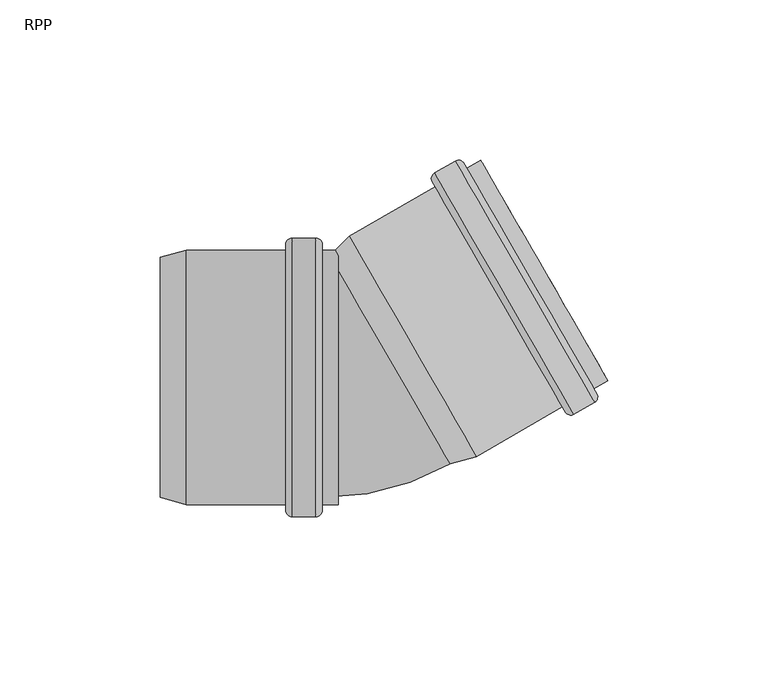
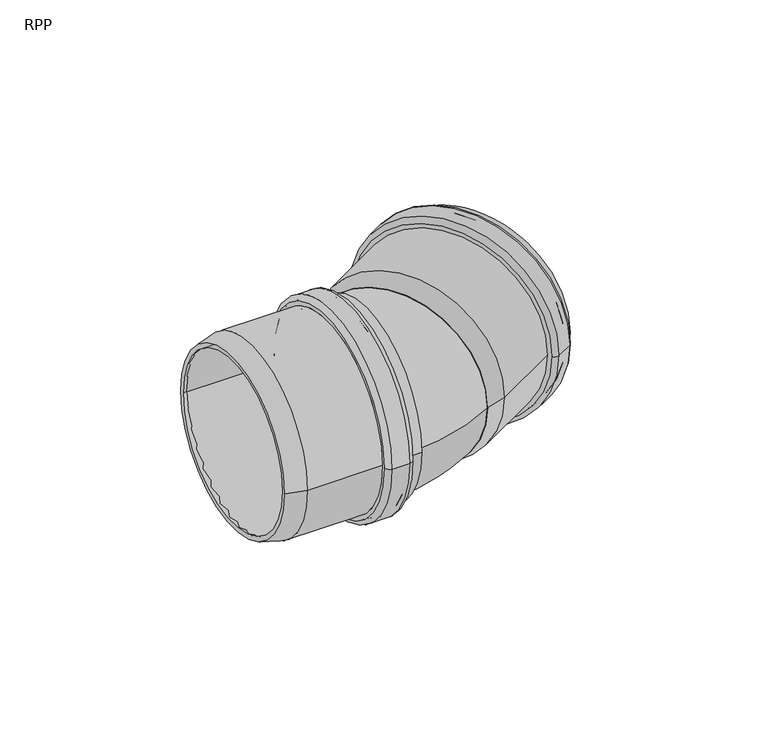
"""IFC4 building model written with IfcOpenShell, lengths in millimetres: pipe fitting geometry, RAUPIANO PLUS Bend : RPP."""

from ifc_helpers import new_model, si_unit, point, frame, origin, place, context, project, spatial, polyline, circle_curve, ellipse_curve, trimmed, source, transform, mapped, element, save
from ifc_brep_helpers import plane_surface, cylinder_surface, revolved_surface, advanced_brep


def rpp_d04c1ebb(model_context):
    return source(origin(), model_context, "Body", "AdvancedBrep", [
        advanced_brep(
        [(-21.0198915, -37.8, 0.0), (-21.0198915, 37.8, 0.0), (-53.65924, 37.8, 0.0), (-53.65924, -37.8, 0.0), (-20.5198915, -41.6, 0.0), (-20.5198915, 41.6, 0.0), (-21.0198915, 41.1, 0.0), (-21.0198915, -41.1, 0.0), (-13.9198915, -41.6, 0.0), (-13.9198915, 41.6, 0.0), (-13.4198915, -41.1, 0.0), (-13.4198915, 41.1, 0.0), (-6.5198915, -37.8, 0.0), (-6.5198915, 37.8, 0.0), (-13.4198915, 37.8, 0.0), (-13.4198915, -37.8, 0.0), (-11.5198915, -39.7, 0.0), (-11.5198915, 39.7, 0.0), (-6.5198915, 39.7, 0.0), (-6.5198915, -39.7, 0.0), (-13.5198915, -43.5, 0.0), (-13.5198915, 43.5, 0.0), (-11.5198915, 41.5, 0.0), (-11.5198915, -41.5, 0.0), (-20.9198915, -43.5, 0.0), (-20.9198915, 43.5, 0.0), (-22.9198915, -41.5, 0.0), (-22.9198915, 41.5, 0.0), (-53.9093797, -39.7, 0.0), (-53.9093797, 39.7, 0.0), (-22.9198915, 39.7, 0.0), (-22.9198915, -39.7, 0.0), (-62.1198915, -37.5, 0.0), (-62.1198915, 37.5, 0.0), (-62.1198915, 35.5329753, 0.0), (-62.1198915, -35.5329753, 0.0)],
        [
            (0, 1, circle_curve(frame((-21.0198915, 0.0, 0.0), z_axis=(1.0, 0.0, 0.0), x_axis=(0.0, 1.0, 0.0)), 37.8)),
            (1, 2),
            (2, 3, circle_curve(frame((-53.65924, 0.0, 0.0), z_axis=(-1.0, 0.0, 0.0), x_axis=(0.0, 1.0, 0.0)), 37.8)),
            (3, 0),
            (4, 5, circle_curve(frame((-20.5198915, 0.0, 0.0), z_axis=(1.0, 0.0, 0.0), x_axis=(0.0, 1.0, 0.0)), 41.6)),
            (5, 6, circle_curve(frame((-20.5198915, 41.1, 0.0), z_axis=(0.0, 0.0, 1.0), x_axis=(0.0, -1.0, 0.0)), 0.5)),
            (6, 7, circle_curve(frame((-21.0198915, 0.0, 0.0), z_axis=(-1.0, 0.0, 0.0), x_axis=(0.0, 1.0, 0.0)), 41.1)),
            (7, 4, circle_curve(frame((-20.5198915, -41.1, 0.0), z_axis=(0.0, 0.0, 1.0), x_axis=(0.0, 1.0, 0.0)), 0.5)),
            (8, 9, circle_curve(frame((-13.9198915, 0.0, 0.0), z_axis=(1.0, 0.0, 0.0), x_axis=(0.0, 1.0, 0.0)), 41.6)),
            (9, 5),
            (4, 8),
            (10, 11, circle_curve(frame((-13.4198915, 0.0, 0.0), z_axis=(1.0, 0.0, 0.0), x_axis=(0.0, 1.0, 0.0)), 41.1)),
            (11, 9, circle_curve(frame((-13.9198915, 41.1, 0.0), z_axis=(0.0, 0.0, 1.0), x_axis=(0.0, -1.0, 0.0)), 0.5)),
            (8, 10, circle_curve(frame((-13.9198915, -41.1, 0.0), z_axis=(0.0, 0.0, 1.0), x_axis=(0.0, 1.0, 0.0)), 0.5)),
            (12, 13, circle_curve(frame((-6.5198915, 0.0, 0.0), z_axis=(1.0, 0.0, 0.0), x_axis=(0.0, 1.0, 0.0)), 37.8)),
            (13, 14),
            (14, 15, circle_curve(frame((-13.4198915, 0.0, 0.0), z_axis=(-1.0, 0.0, 0.0), x_axis=(0.0, 1.0, 0.0)), 37.8)),
            (15, 12),
            (16, 17, circle_curve(frame((-11.5198915, 0.0, 0.0), z_axis=(1.0, 0.0, 0.0), x_axis=(0.0, 1.0, 0.0)), 39.7)),
            (17, 18),
            (18, 19, circle_curve(frame((-6.5198915, 0.0, 0.0), z_axis=(-1.0, 0.0, 0.0), x_axis=(0.0, 1.0, 0.0)), 39.7)),
            (19, 16),
            (20, 21, circle_curve(frame((-13.5198915, 0.0, 0.0), z_axis=(1.0, 0.0, 0.0), x_axis=(0.0, 1.0, 0.0)), 43.5)),
            (21, 22, circle_curve(frame((-13.5198915, 41.5, 0.0), z_axis=(0.0, 0.0, -1.0), x_axis=(0.0, -1.0, 0.0)), 2.0)),
            (22, 23, circle_curve(frame((-11.5198915, 0.0, 0.0), z_axis=(-1.0, 0.0, 0.0), x_axis=(0.0, 1.0, 0.0)), 41.5)),
            (23, 20, circle_curve(frame((-13.5198915, -41.5, 0.0), z_axis=(0.0, 0.0, -1.0), x_axis=(0.0, 1.0, 0.0)), 2.0)),
            (24, 25, circle_curve(frame((-20.9198915, 0.0, 0.0), z_axis=(1.0, 0.0, 0.0), x_axis=(0.0, 1.0, 0.0)), 43.5)),
            (25, 21),
            (20, 24),
            (26, 27, circle_curve(frame((-22.9198915, 0.0, 0.0), z_axis=(1.0, 0.0, 0.0), x_axis=(0.0, 1.0, 0.0)), 41.5)),
            (27, 25, circle_curve(frame((-20.9198915, 41.5, 0.0), z_axis=(0.0, 0.0, -1.0), x_axis=(0.0, -1.0, 0.0)), 2.0)),
            (24, 26, circle_curve(frame((-20.9198915, -41.5, 0.0), z_axis=(0.0, 0.0, -1.0), x_axis=(0.0, 1.0, 0.0)), 2.0)),
            (28, 29, circle_curve(frame((-53.9093797, 0.0, 0.0), z_axis=(1.0, 0.0, 0.0), x_axis=(0.0, 1.0, 0.0)), 39.7)),
            (29, 30),
            (30, 31, circle_curve(frame((-22.9198915, 0.0, 0.0), z_axis=(-1.0, 0.0, 0.0), x_axis=(0.0, 1.0, 0.0)), 39.7)),
            (31, 28),
            (32, 33, circle_curve(frame((-62.1198915, 0.0, 0.0), z_axis=(1.0, 0.0, 0.0), x_axis=(0.0, 1.0, 0.0)), 37.5)),
            (33, 29),
            (28, 32),
            (2, 34),
            (34, 35, circle_curve(frame((-62.1198915, 0.0, 0.0), z_axis=(-1.0, 0.0, 0.0), x_axis=(0.0, 1.0, 0.0)), 35.5329753)),
            (35, 3),
            (1, 0, circle_curve(frame((-21.0198915, 0.0, 0.0), z_axis=(1.0, 0.0, 0.0), x_axis=(0.0, -1.0, 0.0)), 37.8)),
            (3, 2, circle_curve(frame((-53.65924, 0.0, 0.0), z_axis=(-1.0, 0.0, 0.0), x_axis=(0.0, -1.0, 0.0)), 37.8)),
            (6, 7, circle_curve(frame((-21.0198915, 0.0, 0.0), z_axis=(1.0, 0.0, 0.0), x_axis=(0.0, -1.0, 0.0)), 41.1)),
            (5, 4, circle_curve(frame((-20.5198915, 0.0, 0.0), z_axis=(1.0, 0.0, 0.0), x_axis=(0.0, -1.0, 0.0)), 41.6)),
            (9, 8, circle_curve(frame((-13.9198915, 0.0, 0.0), z_axis=(1.0, 0.0, 0.0), x_axis=(0.0, -1.0, 0.0)), 41.6)),
            (11, 10, circle_curve(frame((-13.4198915, 0.0, 0.0), z_axis=(1.0, 0.0, 0.0), x_axis=(0.0, -1.0, 0.0)), 41.1)),
            (14, 15, circle_curve(frame((-13.4198915, 0.0, 0.0), z_axis=(1.0, 0.0, 0.0), x_axis=(0.0, -1.0, 0.0)), 37.8)),
            (13, 12, circle_curve(frame((-6.5198915, 0.0, 0.0), z_axis=(1.0, 0.0, 0.0), x_axis=(0.0, -1.0, 0.0)), 37.8)),
            (18, 19, circle_curve(frame((-6.5198915, 0.0, 0.0), z_axis=(1.0, 0.0, 0.0), x_axis=(0.0, -1.0, 0.0)), 39.7)),
            (17, 16, circle_curve(frame((-11.5198915, 0.0, 0.0), z_axis=(1.0, 0.0, 0.0), x_axis=(0.0, -1.0, 0.0)), 39.7)),
            (22, 23, circle_curve(frame((-11.5198915, 0.0, 0.0), z_axis=(1.0, 0.0, 0.0), x_axis=(0.0, -1.0, 0.0)), 41.5)),
            (21, 20, circle_curve(frame((-13.5198915, 0.0, 0.0), z_axis=(1.0, 0.0, 0.0), x_axis=(0.0, -1.0, 0.0)), 43.5)),
            (25, 24, circle_curve(frame((-20.9198915, 0.0, 0.0), z_axis=(1.0, 0.0, 0.0), x_axis=(0.0, -1.0, 0.0)), 43.5)),
            (27, 26, circle_curve(frame((-22.9198915, 0.0, 0.0), z_axis=(1.0, 0.0, 0.0), x_axis=(0.0, -1.0, 0.0)), 41.5)),
            (30, 31, circle_curve(frame((-22.9198915, 0.0, 0.0), z_axis=(1.0, 0.0, 0.0), x_axis=(0.0, -1.0, 0.0)), 39.7)),
            (29, 28, circle_curve(frame((-53.9093797, 0.0, 0.0), z_axis=(1.0, 0.0, 0.0), x_axis=(0.0, -1.0, 0.0)), 39.7)),
            (33, 32, circle_curve(frame((-62.1198915, 0.0, 0.0), z_axis=(1.0, 0.0, 0.0), x_axis=(0.0, -1.0, 0.0)), 37.5)),
            (34, 35, circle_curve(frame((-62.1198915, 0.0, 0.0), z_axis=(1.0, 0.0, 0.0), x_axis=(0.0, -1.0, 0.0)), 35.5329753)),
        ],
        [
            revolved_surface(polyline([(-53.65924, 37.8, 0.0), (-21.0198915, 37.8, 0.0)]), (-62.1198915, 0.0, 0.0), (-1.0, 0.0, 0.0)),
            revolved_surface(trimmed(ellipse_curve(frame((-20.5198915, 41.1, 0.0), z_axis=(0.0, 0.0, -1.0), x_axis=(0.0, -1.0, 0.0)), 0.5, 0.5), [point((-21.0198915, 41.1, 0.0))], [point((-20.5198915, 41.6, 0.0))], True, "CARTESIAN"), (-62.1198915, 0.0, 0.0), (-1.0, 0.0, 0.0)),
            revolved_surface(polyline([(-20.5198915, 41.6, 0.0), (-13.919891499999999, 41.6, 0.0)]), (-62.1198915, 0.0, 0.0), (-1.0, 0.0, 0.0)),
            revolved_surface(trimmed(ellipse_curve(frame((-13.9198915, 41.1, 0.0), z_axis=(0.0, 0.0, -1.0), x_axis=(0.0, -1.0, 0.0)), 0.5, 0.5), [point((-13.9198915, 41.6, 0.0))], [point((-13.4198915, 41.1, 0.0))], True, "CARTESIAN"), (-62.1198915, 0.0, 0.0), (-1.0, 0.0, 0.0)),
            revolved_surface(polyline([(-13.419891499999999, 37.8, 0.0), (-6.5198915, 37.8, 0.0)]), (-62.1198915, 0.0, 0.0), (-1.0, 0.0, 0.0)),
            cylinder_surface(frame((-62.1198915, 0.0, 0.0), z_axis=(-1.0, 0.0, 0.0), x_axis=(0.0, 1.0, 0.0)), 39.7),
            revolved_surface(trimmed(ellipse_curve(frame((-13.5198915, 41.5, 0.0), z_axis=(0.0, 0.0, 1.0), x_axis=(0.0, -1.0, 0.0)), 2.0, 2.0), [point((-11.5198915, 41.5, 0.0))], [point((-13.5198915, 43.5, 0.0))], True, "CARTESIAN"), (-62.1198915, 0.0, 0.0), (-1.0, 0.0, 0.0)),
            cylinder_surface(frame((-62.1198915, 0.0, 0.0), z_axis=(-1.0, 0.0, 0.0), x_axis=(0.0, 1.0, 0.0)), 43.5),
            revolved_surface(trimmed(ellipse_curve(frame((-20.9198915, 41.5, 0.0), z_axis=(0.0, 0.0, 1.0), x_axis=(0.0, -1.0, 0.0)), 2.0, 2.0), [point((-20.9198915, 43.5, 0.0))], [point((-22.9198915, 41.5, 0.0))], True, "CARTESIAN"), (-62.1198915, 0.0, 0.0), (-1.0, 0.0, 0.0)),
            revolved_surface(polyline([(-53.9093797, 39.7, 0.0), (-62.1198915, 37.5, 0.0)]), (-62.1198915, 0.0, 0.0), (-1.0, 0.0, 0.0)),
            revolved_surface(polyline([(-62.1198915, 35.5329753, 0.0), (-53.65924, 37.8, 0.0)]), (-62.1198915, 0.0, 0.0), (-1.0, 0.0, 0.0)),
            revolved_surface(polyline([(-53.65924, -37.8, 0.0), (-21.0198915, -37.8, 0.0)]), (-62.1198915, 0.0, 0.0), (-1.0, 0.0, 0.0)),
            plane_surface(frame((-21.0198915, 0.0, 0.0), z_axis=(1.0, 0.0, 0.0), x_axis=(0.0, -1.0, 0.0))),
            revolved_surface(trimmed(ellipse_curve(frame((-20.5198915, -41.1, 0.0), z_axis=(0.0, 0.0, 1.0), x_axis=(0.0, 1.0, 0.0)), 0.5, 0.5), [point((-21.0198915, -41.1, 0.0))], [point((-20.5198915, -41.6, 0.0))], True, "CARTESIAN"), (-62.1198915, 0.0, 0.0), (-1.0, 0.0, 0.0)),
            revolved_surface(polyline([(-20.5198915, -41.6, 0.0), (-13.919891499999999, -41.6, 0.0)]), (-62.1198915, 0.0, 0.0), (-1.0, 0.0, 0.0)),
            revolved_surface(trimmed(ellipse_curve(frame((-13.9198915, -41.1, 0.0), z_axis=(0.0, 0.0, 1.0), x_axis=(0.0, 1.0, 0.0)), 0.5, 0.5), [point((-13.9198915, -41.6, 0.0))], [point((-13.4198915, -41.1, 0.0))], True, "CARTESIAN"), (-62.1198915, 0.0, 0.0), (-1.0, 0.0, 0.0)),
            plane_surface(frame((-13.4198915, 0.0, 0.0), z_axis=(-1.0, 0.0, 0.0), x_axis=(0.0, -1.0, 0.0))),
            revolved_surface(polyline([(-13.419891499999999, -37.8, 0.0), (-6.5198915, -37.8, 0.0)]), (-62.1198915, 0.0, 0.0), (-1.0, 0.0, 0.0)),
            plane_surface(frame((-6.5198915, 0.0, 0.0), z_axis=(1.0, 0.0, 0.0), x_axis=(0.0, -1.0, 0.0))),
            cylinder_surface(frame((-62.1198915, 0.0, 0.0), z_axis=(-1.0, 0.0, 0.0), x_axis=(0.0, -1.0, 0.0)), 39.7),
            plane_surface(frame((-11.5198915, 0.0, 0.0), z_axis=(1.0, 0.0, 0.0), x_axis=(0.0, -1.0, 0.0))),
            revolved_surface(trimmed(ellipse_curve(frame((-13.5198915, -41.5, 0.0), z_axis=(0.0, 0.0, -1.0), x_axis=(0.0, 1.0, 0.0)), 2.0, 2.0), [point((-11.5198915, -41.5, 0.0))], [point((-13.5198915, -43.5, 0.0))], True, "CARTESIAN"), (-62.1198915, 0.0, 0.0), (-1.0, 0.0, 0.0)),
            cylinder_surface(frame((-62.1198915, 0.0, 0.0), z_axis=(-1.0, 0.0, 0.0), x_axis=(0.0, -1.0, 0.0)), 43.5),
            revolved_surface(trimmed(ellipse_curve(frame((-20.9198915, -41.5, 0.0), z_axis=(0.0, 0.0, -1.0), x_axis=(0.0, 1.0, 0.0)), 2.0, 2.0), [point((-20.9198915, -43.5, 0.0))], [point((-22.9198915, -41.5, 0.0))], True, "CARTESIAN"), (-62.1198915, 0.0, 0.0), (-1.0, 0.0, 0.0)),
            plane_surface(frame((-22.9198915, 0.0, 0.0), z_axis=(-1.0, 0.0, 0.0), x_axis=(0.0, -1.0, 0.0))),
            revolved_surface(polyline([(-53.9093797, -39.7, 0.0), (-62.1198915, -37.5, 0.0)]), (-62.1198915, 0.0, 0.0), (-1.0, 0.0, 0.0)),
            plane_surface(frame((-62.1198915, 0.0, 0.0), z_axis=(-1.0, 0.0, 0.0), x_axis=(0.0, -1.0, 0.0))),
            revolved_surface(polyline([(-62.1198915, -35.5329753, 0.0), (-53.65924, -37.8, 0.0)]), (-62.1198915, 0.0, 0.0), (-1.0, 0.0, 0.0)),
        ],
        [
            (0, [[1, 2, 3, 4]]),
            (1, [[5, 6, 7, 8]]),
            (2, [[9, 10, -5, 11]]),
            (3, [[12, 13, -9, 14]]),
            (4, [[15, 16, 17, 18]]),
            (5, [[19, 20, 21, 22]]),
            (6, [[23, 24, 25, 26]]),
            (7, [[27, 28, -23, 29]]),
            (8, [[30, 31, -27, 32]]),
            (5, [[33, 34, 35, 36]]),
            (9, [[37, 38, -33, 39]]),
            (10, [[-3, 40, 41, 42]]),
            (11, [[43, -4, 44, -2]]),
            (12, [[45, -7], [-43, -1]]),
            (13, [[46, -8, -45, -6]]),
            (14, [[47, -11, -46, -10]]),
            (15, [[48, -14, -47, -13]]),
            (16, [[-48, -12], [49, -17]]),
            (17, [[50, -18, -49, -16]]),
            (18, [[51, -21], [-50, -15]]),
            (19, [[52, -22, -51, -20]]),
            (20, [[53, -25], [-52, -19]]),
            (21, [[54, -26, -53, -24]]),
            (22, [[55, -29, -54, -28]]),
            (23, [[56, -32, -55, -31]]),
            (24, [[-56, -30], [57, -35]]),
            (19, [[58, -36, -57, -34]]),
            (25, [[59, -39, -58, -38]]),
            (26, [[-59, -37], [60, -41]]),
            (27, [[-44, -42, -60, -40]]),
        ],
    ),
        advanced_brep(
        [(27.3965961, -25.2125135, 0.0), (-8.1363791, 36.332405, 0.0), (-1.9427523, 42.5260318, 0.0), (35.8572477, -22.9454888, 0.0), (36.5906203, -24.7160069, 0.0), (-3.1093797, 44.0464102, 0.0), (-9.1198915, 38.0358984, 0.0), (28.3801085, -26.9160069, 0.0), (63.4283043, -9.2212628, 0.0), (23.7283043, 59.5411543, 0.0), (73.4689431, -7.8121593, 0.0), (29.9689431, 67.5320508, 0.0), (23.5603552, 63.8320508, 0.0), (67.0603552, -11.5121593, 0.0), (77.631121, -1.0212628, 0.0), (37.931121, 67.7411543, 0.0), (33.6009939, 65.2411543, 0.0), (73.3009939, -3.5212628, 0.0), (70.7055457, -2.8258145, 0.0), (32.9055457, 62.645706, 0.0), (38.881121, 66.095706, 0.0), (76.681121, 0.6241855, 0.0), (66.4567653, -9.6667111, 0.0), (24.8567653, 62.3866025, 0.0), (30.572533, 65.6866025, 0.0), (72.172533, -6.3667111, 0.0), (26.3237526, 58.845706, 0.0), (64.1237526, -6.6258145, 0.0), (22.8283043, 61.1, 0.0), (64.3283043, -10.7801085, 0.0), (74.2009939, -5.0801085, 0.0), (32.7009939, 66.8, 0.0), (31.2555457, 65.5035898, 0.0), (72.3555457, -5.6836984, 0.0), (65.7737526, -9.4836984, 0.0), (24.6737526, 61.7035898, 0.0)],
        [
            (0, 1, circle_curve(frame((9.6301085, 5.5599457, 0.0), z_axis=(-0.8660254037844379, -0.5000000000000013, 0.0), x_axis=(-0.5000000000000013, 0.8660254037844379, 0.0)), 35.5329753)),
            (1, 2),
            (2, 3, circle_curve(frame((16.9572477, 9.7902715, 0.0), z_axis=(0.8660254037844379, 0.5000000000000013, 0.0), x_axis=(-0.5000000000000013, 0.8660254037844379, 0.0)), 37.8)),
            (3, 0),
            (4, 5, circle_curve(frame((16.7406203, 9.6652016, 0.0), z_axis=(-0.8660254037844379, -0.5000000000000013, 0.0), x_axis=(-0.5000000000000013, 0.8660254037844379, 0.0)), 39.7)),
            (5, 6),
            (6, 7, circle_curve(frame((9.6301085, 5.5599457, 0.0), z_axis=(0.8660254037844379, 0.5000000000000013, 0.0), x_axis=(-0.5000000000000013, 0.8660254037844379, 0.0)), 37.5)),
            (7, 4),
            (8, 9, circle_curve(frame((43.5783043, 25.1599457, 0.0), z_axis=(-0.8660254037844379, -0.5000000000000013, 0.0), x_axis=(-0.5000000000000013, 0.8660254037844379, 0.0)), 39.7)),
            (9, 5),
            (4, 8),
            (10, 11, circle_curve(frame((51.7189431, 29.8599457, 0.0), z_axis=(-0.8660254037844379, -0.5000000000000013, 0.0), x_axis=(-0.5000000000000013, 0.8660254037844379, 0.0)), 43.5)),
            (11, 12),
            (12, 13, circle_curve(frame((45.3103552, 26.1599457, 0.0), z_axis=(0.8660254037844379, 0.5000000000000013, 0.0), x_axis=(-0.5000000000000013, 0.8660254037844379, 0.0)), 43.5)),
            (13, 10),
            (14, 15, circle_curve(frame((57.781121, 33.3599457, 0.0), z_axis=(-0.8660254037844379, -0.5000000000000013, 0.0), x_axis=(-0.5000000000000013, 0.8660254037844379, 0.0)), 39.7)),
            (15, 16),
            (16, 17, circle_curve(frame((53.4509939, 30.8599457, 0.0), z_axis=(0.8660254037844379, 0.5000000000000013, 0.0), x_axis=(-0.5000000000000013, 0.8660254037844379, 0.0)), 39.7)),
            (17, 14),
            (18, 19, circle_curve(frame((51.8055457, 29.9099457, 0.0), z_axis=(-0.8660254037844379, -0.5000000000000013, 0.0), x_axis=(-0.5000000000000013, 0.8660254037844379, 0.0)), 37.8)),
            (19, 20),
            (20, 21, circle_curve(frame((57.781121, 33.3599457, 0.0), z_axis=(0.8660254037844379, 0.5000000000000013, 0.0), x_axis=(-0.5000000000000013, 0.8660254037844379, 0.0)), 37.8)),
            (21, 18),
            (22, 23, circle_curve(frame((45.6567653, 26.3599457, 0.0), z_axis=(-0.8660254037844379, -0.5000000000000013, 0.0), x_axis=(-0.5000000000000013, 0.8660254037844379, 0.0)), 41.6)),
            (23, 24),
            (24, 25, circle_curve(frame((51.372533, 29.6599457, 0.0), z_axis=(0.8660254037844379, 0.5000000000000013, 0.0), x_axis=(-0.5000000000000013, 0.8660254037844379, 0.0)), 41.6)),
            (25, 22),
            (2, 26),
            (26, 27, circle_curve(frame((45.2237526, 26.1099457, 0.0), z_axis=(0.8660254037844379, 0.5000000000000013, 0.0), x_axis=(-0.5000000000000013, 0.8660254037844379, 0.0)), 37.8)),
            (27, 3),
            (1, 0, circle_curve(frame((9.6301085, 5.5599457, 0.0), z_axis=(-0.8660254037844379, -0.5000000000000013, 0.0), x_axis=(0.5000000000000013, -0.8660254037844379, 0.0)), 35.5329753)),
            (3, 2, circle_curve(frame((16.9572477, 9.7902715, 0.0), z_axis=(0.8660254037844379, 0.5000000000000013, 0.0), x_axis=(0.5000000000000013, -0.8660254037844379, 0.0)), 37.8)),
            (6, 7, circle_curve(frame((9.6301085, 5.5599457, 0.0), z_axis=(-0.8660254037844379, -0.5000000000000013, 0.0), x_axis=(0.5000000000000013, -0.8660254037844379, 0.0)), 37.5)),
            (5, 4, circle_curve(frame((16.7406203, 9.6652016, 0.0), z_axis=(-0.8660254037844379, -0.5000000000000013, 0.0), x_axis=(0.5000000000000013, -0.8660254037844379, 0.0)), 39.7)),
            (9, 8, circle_curve(frame((43.5783043, 25.1599457, 0.0), z_axis=(-0.8660254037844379, -0.5000000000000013, 0.0), x_axis=(0.5000000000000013, -0.8660254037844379, 0.0)), 39.7)),
            (28, 29, circle_curve(frame((43.5783043, 25.1599457, 0.0), z_axis=(-0.8660254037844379, -0.5000000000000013, 0.0), x_axis=(0.5000000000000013, -0.8660254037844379, 0.0)), 41.5)),
            (29, 28, circle_curve(frame((43.5783043, 25.1599457, 0.0), z_axis=(-0.8660254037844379, -0.5000000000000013, 0.0), x_axis=(-0.5000000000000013, 0.8660254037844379, 0.0)), 41.5)),
            (11, 10, circle_curve(frame((51.7189431, 29.8599457, 0.0), z_axis=(-0.8660254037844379, -0.5000000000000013, 0.0), x_axis=(0.5000000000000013, -0.8660254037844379, 0.0)), 43.5)),
            (13, 12, circle_curve(frame((45.3103552, 26.1599457, 0.0), z_axis=(0.8660254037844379, 0.5000000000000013, 0.0), x_axis=(0.5000000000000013, -0.8660254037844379, 0.0)), 43.5)),
            (30, 31, circle_curve(frame((53.4509939, 30.8599457, 0.0), z_axis=(0.8660254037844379, 0.5000000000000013, 0.0), x_axis=(0.5000000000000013, -0.8660254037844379, 0.0)), 41.5)),
            (31, 30, circle_curve(frame((53.4509939, 30.8599457, 0.0), z_axis=(0.8660254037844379, 0.5000000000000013, 0.0), x_axis=(-0.5000000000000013, 0.8660254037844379, 0.0)), 41.5)),
            (16, 17, circle_curve(frame((53.4509939, 30.8599457, 0.0), z_axis=(-0.8660254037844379, -0.5000000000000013, 0.0), x_axis=(0.5000000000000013, -0.8660254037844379, 0.0)), 39.7)),
            (15, 14, circle_curve(frame((57.781121, 33.3599457, 0.0), z_axis=(-0.8660254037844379, -0.5000000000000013, 0.0), x_axis=(0.5000000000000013, -0.8660254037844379, 0.0)), 39.7)),
            (20, 21, circle_curve(frame((57.781121, 33.3599457, 0.0), z_axis=(-0.8660254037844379, -0.5000000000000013, 0.0), x_axis=(0.5000000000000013, -0.8660254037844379, 0.0)), 37.8)),
            (19, 18, circle_curve(frame((51.8055457, 29.9099457, 0.0), z_axis=(-0.8660254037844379, -0.5000000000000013, 0.0), x_axis=(0.5000000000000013, -0.8660254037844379, 0.0)), 37.8)),
            (32, 33, circle_curve(frame((51.8055457, 29.9099457, 0.0), z_axis=(-0.8660254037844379, -0.5000000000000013, 0.0), x_axis=(0.5000000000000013, -0.8660254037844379, 0.0)), 41.1)),
            (33, 32, circle_curve(frame((51.8055457, 29.9099457, 0.0), z_axis=(-0.8660254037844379, -0.5000000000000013, 0.0), x_axis=(-0.5000000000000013, 0.8660254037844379, 0.0)), 41.1)),
            (23, 22, circle_curve(frame((45.6567653, 26.3599457, 0.0), z_axis=(-0.8660254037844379, -0.5000000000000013, 0.0), x_axis=(0.5000000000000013, -0.8660254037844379, 0.0)), 41.6)),
            (25, 24, circle_curve(frame((51.372533, 29.6599457, 0.0), z_axis=(0.8660254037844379, 0.5000000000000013, 0.0), x_axis=(0.5000000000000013, -0.8660254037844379, 0.0)), 41.6)),
            (34, 35, circle_curve(frame((45.2237526, 26.1099457, 0.0), z_axis=(0.8660254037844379, 0.5000000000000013, 0.0), x_axis=(0.5000000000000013, -0.8660254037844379, 0.0)), 41.1)),
            (35, 34, circle_curve(frame((45.2237526, 26.1099457, 0.0), z_axis=(0.8660254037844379, 0.5000000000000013, 0.0), x_axis=(-0.5000000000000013, 0.8660254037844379, 0.0)), 41.1)),
            (26, 27, circle_curve(frame((45.2237526, 26.1099457, 0.0), z_axis=(-0.8660254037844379, -0.5000000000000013, 0.0), x_axis=(0.5000000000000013, -0.8660254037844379, 0.0)), 37.8)),
            (12, 28, circle_curve(frame((24.5603552, 62.1, 0.0), z_axis=(0.0, 0.0, 1.0), x_axis=(0.5000000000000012, -0.866025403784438, 0.0)), 2.0)),
            (29, 13, circle_curve(frame((66.0603552, -9.7801085, 0.0), z_axis=(0.0, 0.0, 1.0), x_axis=(-0.5000000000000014, 0.8660254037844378, 0.0)), 2.0)),
            (31, 11, circle_curve(frame((30.9689431, 65.8, 0.0), z_axis=(0.0, 0.0, 1.0), x_axis=(0.5000000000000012, -0.866025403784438, 0.0)), 2.0)),
            (10, 30, circle_curve(frame((72.4689431, -6.0801085, 0.0), z_axis=(0.0, 0.0, 1.0), x_axis=(-0.5000000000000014, 0.8660254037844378, 0.0)), 2.0)),
            (24, 32, circle_curve(frame((30.822533, 65.2535898, 0.0), z_axis=(0.0, 0.0, -1.0), x_axis=(0.5000000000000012, -0.866025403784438, 0.0)), 0.5)),
            (33, 25, circle_curve(frame((71.922533, -5.9336984, 0.0), z_axis=(0.0, 0.0, -1.0), x_axis=(-0.5000000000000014, 0.8660254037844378, 0.0)), 0.5)),
            (35, 23, circle_curve(frame((25.1067653, 61.9535898, 0.0), z_axis=(0.0, 0.0, -1.0), x_axis=(0.5000000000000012, -0.866025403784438, 0.0)), 0.5)),
            (22, 34, circle_curve(frame((66.2067653, -9.2336984, 0.0), z_axis=(0.0, 0.0, -1.0), x_axis=(-0.5000000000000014, 0.8660254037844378, 0.0)), 0.5)),
        ],
        [
            revolved_surface(polyline([(-1.9427523, 42.5260318, 0.0), (-8.1363791, 36.332405, 0.0)]), (9.6301085, 5.5599457, 0.0), (0.8660254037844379, 0.5000000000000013, 0.0)),
            revolved_surface(polyline([(-9.1198915, 38.0358984, 0.0), (-3.1093797, 44.0464102, 0.0)]), (9.6301085, 5.5599457, 0.0), (0.8660254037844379, 0.5000000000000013, 0.0)),
            cylinder_surface(frame((9.6301085, 5.5599457, 0.0), z_axis=(0.8660254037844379, 0.5000000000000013, 0.0), x_axis=(-0.5000000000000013, 0.8660254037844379, 0.0)), 39.7),
            cylinder_surface(frame((9.6301085, 5.5599457, 0.0), z_axis=(0.8660254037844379, 0.5000000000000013, 0.0), x_axis=(-0.5000000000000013, 0.8660254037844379, 0.0)), 43.5),
            revolved_surface(polyline([(38.88112101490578, 66.09570600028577, 0.0), (32.90554569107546, 62.64570597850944, 0.0)]), (9.6301085, 5.5599457, 0.0), (0.8660254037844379, 0.5000000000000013, 0.0)),
            revolved_surface(polyline([(30.572532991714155, 65.68660251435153, 0.0), (24.85676529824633, 62.38660249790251, 0.0)]), (9.6301085, 5.5599457, 0.0), (0.8660254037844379, 0.5000000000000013, 0.0)),
            revolved_surface(polyline([(26.323752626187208, 58.84570598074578, 0.0), (-1.9427523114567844, 42.52603174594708, 0.0)]), (9.6301085, 5.5599457, 0.0), (0.8660254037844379, 0.5000000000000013, 0.0)),
            revolved_surface(polyline([(35.8572477, -22.9454888, 0.0), (27.3965961, -25.2125135, 0.0)]), (9.6301085, 5.5599457, 0.0), (0.8660254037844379, 0.5000000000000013, 0.0)),
            plane_surface(frame((9.6301085, 5.5599457, 0.0), z_axis=(-0.8660254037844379, -0.5000000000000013, 0.0), x_axis=(0.5000000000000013, -0.8660254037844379, 0.0))),
            revolved_surface(polyline([(28.3801085, -26.9160069, 0.0), (36.5906203, -24.7160069, 0.0)]), (9.6301085, 5.5599457, 0.0), (0.8660254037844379, 0.5000000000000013, 0.0)),
            cylinder_surface(frame((9.6301085, 5.5599457, 0.0), z_axis=(0.8660254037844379, 0.5000000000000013, 0.0), x_axis=(0.5000000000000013, -0.8660254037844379, 0.0)), 39.7),
            plane_surface(frame((43.5783043, 25.1599457, 0.0), z_axis=(-0.8660254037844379, -0.5000000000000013, 0.0), x_axis=(0.5000000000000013, -0.8660254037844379, 0.0))),
            cylinder_surface(frame((9.6301085, 5.5599457, 0.0), z_axis=(0.8660254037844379, 0.5000000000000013, 0.0), x_axis=(0.5000000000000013, -0.8660254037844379, 0.0)), 43.5),
            plane_surface(frame((53.4509939, 30.8599457, 0.0), z_axis=(0.8660254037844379, 0.5000000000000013, 0.0), x_axis=(0.5000000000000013, -0.8660254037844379, 0.0))),
            plane_surface(frame((57.781121, 33.3599457, 0.0), z_axis=(0.8660254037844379, 0.5000000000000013, 0.0), x_axis=(0.5000000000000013, -0.8660254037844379, 0.0))),
            revolved_surface(polyline([(76.68112101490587, 0.6241854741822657, 0.0), (70.70554569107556, -2.8258145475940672, 0.0)]), (9.6301085, 5.5599457, 0.0), (0.8660254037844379, 0.5000000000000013, 0.0)),
            plane_surface(frame((51.8055457, 29.9099457, 0.0), z_axis=(-0.8660254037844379, -0.5000000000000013, 0.0), x_axis=(0.5000000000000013, -0.8660254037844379, 0.0))),
            revolved_surface(polyline([(72.17253299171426, -6.36671108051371, 0.0), (66.45676529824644, -9.666711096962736, 0.0)]), (9.6301085, 5.5599457, 0.0), (0.8660254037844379, 0.5000000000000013, 0.0)),
            plane_surface(frame((45.2237526, 26.1099457, 0.0), z_axis=(0.8660254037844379, 0.5000000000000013, 0.0), x_axis=(0.5000000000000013, -0.8660254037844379, 0.0))),
            revolved_surface(polyline([(64.1237526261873, -6.625814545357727, 0.0), (35.85724768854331, -22.945488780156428, 0.0)]), (9.6301085, 5.5599457, 0.0), (0.8660254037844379, 0.5000000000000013, 0.0)),
            revolved_surface(trimmed(ellipse_curve(frame((24.5603552, 62.1, 0.0), z_axis=(0.0, 0.0, -1.0), x_axis=(0.5000000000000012, -0.866025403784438, 0.0)), 2.0, 2.0), [point((22.8283043, 61.1, 0.0))], [point((23.5603552, 63.8320508, 0.0))], True, "CARTESIAN"), (9.6301085, 5.5599457, 0.0), (0.8660254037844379, 0.5000000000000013, 0.0)),
            revolved_surface(trimmed(ellipse_curve(frame((30.9689431, 65.8, 0.0), z_axis=(0.0, 0.0, -1.0), x_axis=(0.5000000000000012, -0.866025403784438, 0.0)), 2.0, 2.0), [point((29.9689431, 67.5320508, 0.0))], [point((32.7009939, 66.8, 0.0))], True, "CARTESIAN"), (9.6301085, 5.5599457, 0.0), (0.8660254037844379, 0.5000000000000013, 0.0)),
            revolved_surface(trimmed(ellipse_curve(frame((30.822533, 65.2535898, 0.0), z_axis=(0.0, 0.0, 1.0), x_axis=(0.5000000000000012, -0.866025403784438, 0.0)), 0.5, 0.5), [point((31.2555457, 65.5035898, 0.0))], [point((30.572533, 65.6866025, 0.0))], True, "CARTESIAN"), (9.6301085, 5.5599457, 0.0), (0.8660254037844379, 0.5000000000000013, 0.0)),
            revolved_surface(trimmed(ellipse_curve(frame((25.1067653, 61.9535898, 0.0), z_axis=(0.0, 0.0, 1.0), x_axis=(0.5000000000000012, -0.866025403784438, 0.0)), 0.5, 0.5), [point((24.8567653, 62.3866025, 0.0))], [point((24.6737526, 61.7035898, 0.0))], True, "CARTESIAN"), (9.6301085, 5.5599457, 0.0), (0.8660254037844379, 0.5000000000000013, 0.0)),
            revolved_surface(trimmed(ellipse_curve(frame((66.0603552, -9.7801085, 0.0), z_axis=(0.0, 0.0, 1.0), x_axis=(-0.5000000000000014, 0.8660254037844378, 0.0)), 2.0, 2.0), [point((64.3283043, -10.7801085, 0.0))], [point((67.0603552, -11.5121593, 0.0))], True, "CARTESIAN"), (9.6301085, 5.5599457, 0.0), (0.8660254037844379, 0.5000000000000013, 0.0)),
            revolved_surface(trimmed(ellipse_curve(frame((72.4689431, -6.0801085, 0.0), z_axis=(0.0, 0.0, 1.0), x_axis=(-0.5000000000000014, 0.8660254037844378, 0.0)), 2.0, 2.0), [point((73.4689431, -7.8121593, 0.0))], [point((74.2009939, -5.0801085, 0.0))], True, "CARTESIAN"), (9.6301085, 5.5599457, 0.0), (0.8660254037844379, 0.5000000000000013, 0.0)),
            revolved_surface(trimmed(ellipse_curve(frame((71.922533, -5.9336984, 0.0), z_axis=(0.0, 0.0, -1.0), x_axis=(-0.5000000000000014, 0.8660254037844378, 0.0)), 0.5, 0.5), [point((72.3555457, -5.6836984, 0.0))], [point((72.172533, -6.3667111, 0.0))], True, "CARTESIAN"), (9.6301085, 5.5599457, 0.0), (0.8660254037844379, 0.5000000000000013, 0.0)),
            revolved_surface(trimmed(ellipse_curve(frame((66.2067653, -9.2336984, 0.0), z_axis=(0.0, 0.0, -1.0), x_axis=(-0.5000000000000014, 0.8660254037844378, 0.0)), 0.5, 0.5), [point((66.4567653, -9.6667111, 0.0))], [point((65.7737526, -9.4836984, 0.0))], True, "CARTESIAN"), (9.6301085, 5.5599457, 0.0), (0.8660254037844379, 0.5000000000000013, 0.0)),
        ],
        [
            (0, [[1, 2, 3, 4]]),
            (1, [[5, 6, 7, 8]]),
            (2, [[9, 10, -5, 11]]),
            (3, [[12, 13, 14, 15]]),
            (2, [[16, 17, 18, 19]]),
            (4, [[20, 21, 22, 23]]),
            (5, [[24, 25, 26, 27]]),
            (6, [[-3, 28, 29, 30]]),
            (7, [[31, -4, 32, -2]]),
            (8, [[33, -7], [-31, -1]]),
            (9, [[34, -8, -33, -6]]),
            (10, [[35, -11, -34, -10]]),
            (11, [[36, 37], [-35, -9]]),
            (12, [[38, -15, 39, -13]]),
            (13, [[40, 41], [42, -18]]),
            (10, [[43, -19, -42, -17]]),
            (14, [[-43, -16], [44, -22]]),
            (15, [[45, -23, -44, -21]]),
            (16, [[46, 47], [-45, -20]]),
            (17, [[48, -27, 49, -25]]),
            (18, [[50, 51], [52, -29]]),
            (19, [[-32, -30, -52, -28]]),
            (20, [[-14, 53, -37, 54]]),
            (21, [[-41, 55, -12, 56]]),
            (22, [[-26, 57, -47, 58]]),
            (23, [[-51, 59, -24, 60]]),
            (24, [[-39, -54, -36, -53]]),
            (25, [[-40, -56, -38, -55]]),
            (26, [[-49, -58, -46, -57]]),
            (27, [[-50, -60, -48, -59]]),
        ],
    ),
        advanced_brep(
        [(-11.1198915, 35.6, 0.0), (-11.1198915, -35.6, 0.0), (-62.1198915, -35.6, 0.0), (-62.1198915, 35.6, 0.0), (-58.0146356, 37.5, 0.0), (-58.0146356, -37.5, 0.0), (-11.1198915, -37.5, 0.0), (-11.1198915, 37.5, 0.0), (-62.1198915, 36.4, 0.0), (-62.1198915, -36.4, 0.0)],
        [
            (0, 1, circle_curve(frame((-11.1198915, 0.0, 0.0), z_axis=(1.0, 0.0, 0.0), x_axis=(0.0, -1.0, 0.0)), 35.6)),
            (1, 2),
            (2, 3, circle_curve(frame((-62.1198915, 0.0, 0.0), z_axis=(-1.0, 0.0, 0.0), x_axis=(0.0, -1.0, 0.0)), 35.6)),
            (3, 0),
            (4, 5, circle_curve(frame((-58.0146356, 0.0, 0.0), z_axis=(1.0, 0.0, 0.0), x_axis=(0.0, -1.0, 0.0)), 37.5)),
            (5, 6),
            (6, 7, circle_curve(frame((-11.1198915, 0.0, 0.0), z_axis=(-1.0, 0.0, 0.0), x_axis=(0.0, -1.0, 0.0)), 37.5)),
            (7, 4),
            (8, 9, circle_curve(frame((-62.1198915, 0.0, 0.0), z_axis=(1.0, 0.0, 0.0), x_axis=(0.0, -1.0, 0.0)), 36.4)),
            (9, 5),
            (4, 8),
            (1, 0, circle_curve(frame((-11.1198915, 0.0, 0.0), z_axis=(1.0, 0.0, 0.0), x_axis=(0.0, 1.0, 0.0)), 35.6)),
            (3, 2, circle_curve(frame((-62.1198915, 0.0, 0.0), z_axis=(-1.0, 0.0, 0.0), x_axis=(0.0, 1.0, 0.0)), 35.6)),
            (6, 7, circle_curve(frame((-11.1198915, 0.0, 0.0), z_axis=(1.0, 0.0, 0.0), x_axis=(0.0, 1.0, 0.0)), 37.5)),
            (5, 4, circle_curve(frame((-58.0146356, 0.0, 0.0), z_axis=(1.0, 0.0, 0.0), x_axis=(0.0, 1.0, 0.0)), 37.5)),
            (9, 8, circle_curve(frame((-62.1198915, 0.0, 0.0), z_axis=(1.0, 0.0, 0.0), x_axis=(0.0, 1.0, 0.0)), 36.4)),
        ],
        [
            revolved_surface(polyline([(-62.1198915, -35.6, 0.0), (-11.1198915, -35.6, 0.0)]), (-11.1198915, 0.0, 0.0), (-1.0, 0.0, 0.0)),
            cylinder_surface(frame((-11.1198915, 0.0, 0.0), z_axis=(-1.0, 0.0, 0.0), x_axis=(0.0, -1.0, 0.0)), 37.5),
            revolved_surface(polyline([(-58.0146356, -37.5, 0.0), (-62.1198915, -36.4, 0.0)]), (-11.1198915, 0.0, 0.0), (-1.0, 0.0, 0.0)),
            revolved_surface(polyline([(-62.1198915, 35.6, 0.0), (-11.1198915, 35.6, 0.0)]), (-11.1198915, 0.0, 0.0), (-1.0, 0.0, 0.0)),
            plane_surface(frame((-11.1198915, 0.0, 0.0), z_axis=(1.0, 0.0, 0.0), x_axis=(0.0, 1.0, 0.0))),
            cylinder_surface(frame((-11.1198915, 0.0, 0.0), z_axis=(-1.0, 0.0, 0.0), x_axis=(0.0, 1.0, 0.0)), 37.5),
            revolved_surface(polyline([(-58.0146356, 37.5, 0.0), (-62.1198915, 36.4, 0.0)]), (-11.1198915, 0.0, 0.0), (-1.0, 0.0, 0.0)),
            plane_surface(frame((-62.1198915, 0.0, 0.0), z_axis=(-1.0, 0.0, 0.0), x_axis=(0.0, 1.0, 0.0))),
        ],
        [
            (0, [[1, 2, 3, 4]]),
            (1, [[5, 6, 7, 8]]),
            (2, [[9, 10, -5, 11]]),
            (3, [[12, -4, 13, -2]]),
            (4, [[14, -7], [-12, -1]]),
            (5, [[15, -8, -14, -6]]),
            (6, [[16, -11, -15, -10]]),
            (7, [[-16, -9], [-13, -3]]),
        ],
    ),
        advanced_brep(
        [(-11.1198915, -37.5, 0.0), (-11.1198915, 37.5, 0.0), (-11.1198915, -35.6, 0.0), (-11.1198915, 35.6, 0.0), (28.3801085, -26.9160069, 0.0), (-9.1198915, 38.0358984, 0.0), (27.4301085, -25.2705586, 0.0), (-8.1698915, 36.3904501, 0.0)],
        [
            (0, 1, circle_curve(frame((-11.1198915, 0.0, 0.0), z_axis=(-1.0, 0.0, 0.0), x_axis=(0.0, 1.0, 0.0)), 37.5)),
            (1, 0, circle_curve(frame((-11.1198915, 0.0, 0.0), z_axis=(-1.0, 0.0, 0.0), x_axis=(0.0, 1.0, 0.0)), 37.5)),
            (2, 3, circle_curve(frame((-11.1198915, 0.0, 0.0), z_axis=(1.0, 0.0, 0.0), x_axis=(0.0, 1.0, 0.0)), 35.6)),
            (3, 2, circle_curve(frame((-11.1198915, 0.0, 0.0), z_axis=(1.0, 0.0, 0.0), x_axis=(0.0, 1.0, 0.0)), 35.6)),
            (4, 5, circle_curve(frame((9.6301085, 5.5599457, 0.0), z_axis=(0.8660254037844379, 0.5000000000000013, 0.0), x_axis=(-0.5000000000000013, 0.8660254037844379, 0.0)), 37.5)),
            (5, 4, circle_curve(frame((9.6301085, 5.5599457, 0.0), z_axis=(0.8660254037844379, 0.5000000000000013, 0.0), x_axis=(-0.5000000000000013, 0.8660254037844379, 0.0)), 37.5)),
            (6, 7, circle_curve(frame((9.6301085, 5.5599457, 0.0), z_axis=(-0.8660254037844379, -0.5000000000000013, 0.0), x_axis=(-0.5000000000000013, 0.8660254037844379, 0.0)), 35.6)),
            (7, 6, circle_curve(frame((9.6301085, 5.5599457, 0.0), z_axis=(-0.8660254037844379, -0.5000000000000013, 0.0), x_axis=(-0.5000000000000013, 0.8660254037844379, 0.0)), 35.6)),
            (7, 3, circle_curve(frame((-11.1198915, 41.5, 0.0), z_axis=(0.0, 0.0, -1.0), x_axis=(0.0, -1.0, 0.0)), 5.9)),
            (2, 6, circle_curve(frame((-11.1198915, 41.5, 0.0), z_axis=(0.0, 0.0, 1.0), x_axis=(0.0, -1.0, 0.0)), 77.1)),
            (5, 1, circle_curve(frame((-11.1198915, 41.5, 0.0), z_axis=(0.0, 0.0, -1.0), x_axis=(0.0, -1.0, 0.0)), 4.0)),
            (0, 4, circle_curve(frame((-11.1198915, 41.5, 0.0), z_axis=(0.0, 0.0, 1.0), x_axis=(0.0, -1.0, 0.0)), 79.0)),
        ],
        [
            plane_surface(frame((-11.1198915, 0.0, 0.0), z_axis=(-1.0, 0.0, 0.0), x_axis=(0.0, 0.0, 1.0))),
            plane_surface(frame((9.6301085, 5.5599457, 0.0), z_axis=(0.866025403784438, 0.5000000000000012, 0.0), x_axis=(0.0, 0.0, 1.0))),
            revolved_surface(trimmed(ellipse_curve(frame((-11.1198915, 0.0, 0.0), z_axis=(1.0, 0.0, 0.0), x_axis=(0.0, 1.0, 0.0)), 35.6, 35.6), [point((-11.1198915, -35.6, 0.0))], [point((-11.1198915, 35.6, 0.0))], True, "CARTESIAN"), (-11.1198915, 41.5, 0.0), (0.0, 0.0, 1.0)),
            revolved_surface(trimmed(ellipse_curve(frame((-11.1198915, 0.0, 0.0), z_axis=(1.0, 0.0, 0.0), x_axis=(0.0, 1.0, 0.0)), 35.6, 35.6), [point((-11.1198915, 35.6, 0.0))], [point((-11.1198915, -35.6, 0.0))], True, "CARTESIAN"), (-11.1198915, 41.5, 0.0), (0.0, 0.0, 1.0)),
            revolved_surface(trimmed(ellipse_curve(frame((-11.1198915, 0.0, 0.0), z_axis=(-1.0, 0.0, 0.0), x_axis=(0.0, 1.0, 0.0)), 37.5, 37.5), [point((-11.1198915, -37.5, 0.0))], [point((-11.1198915, 37.5, 0.0))], True, "CARTESIAN"), (-11.1198915, 41.5, 0.0), (0.0, 0.0, 1.0)),
            revolved_surface(trimmed(ellipse_curve(frame((-11.1198915, 0.0, 0.0), z_axis=(-1.0, 0.0, 0.0), x_axis=(0.0, 1.0, 0.0)), 37.5, 37.5), [point((-11.1198915, 37.5, 0.0))], [point((-11.1198915, -37.5, 0.0))], True, "CARTESIAN"), (-11.1198915, 41.5, 0.0), (0.0, 0.0, 1.0)),
        ],
        [
            (0, [[1, 2], [3, 4]]),
            (1, [[5, 6], [7, 8]]),
            (2, [[9, -3, 10, -8]]),
            (3, [[-10, -4, -9, -7]]),
            (4, [[11, -1, 12, -6]]),
            (5, [[-12, -2, -11, -5]]),
        ],
    ),
    ])


if __name__ == "__main__":
    model = new_model("IFC4")
    model_context = context("Model", 3, world=origin())
    ifc_project = project(units=[si_unit("LENGTHUNIT", "METRE", prefix="MILLI")], contexts=[model_context])
    site = spatial("IfcSite", under=ifc_project)
    building = spatial("IfcBuilding", under=site)
    placement = place(None, origin())
    rpp_shape = rpp_d04c1ebb(model_context)
    element("IfcPipeFitting", 1, ObjectType="RAUPIANO PLUS Bend : RPP", at=placement, inside=building, context=model_context, shape_type="MappedRepresentation", body=[
        mapped(rpp_shape, transform((0.0, 0.0, 0.0), x_axis=(1.0, 0.0, 0.0), y_axis=(0.0, 1.0, 0.0), z_axis=(0.0, 0.0, 1.0))),
    ])
    save(model, "model.ifc")
